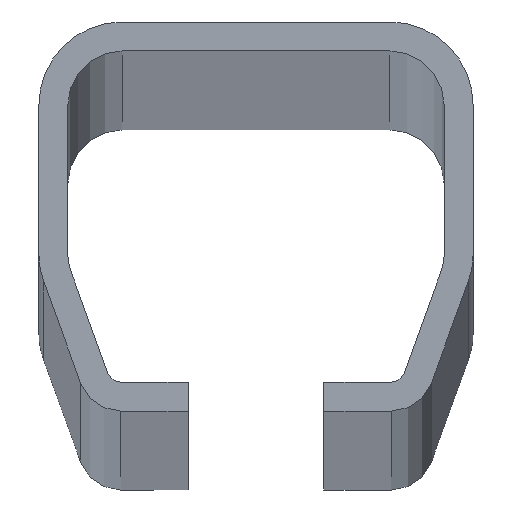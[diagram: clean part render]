
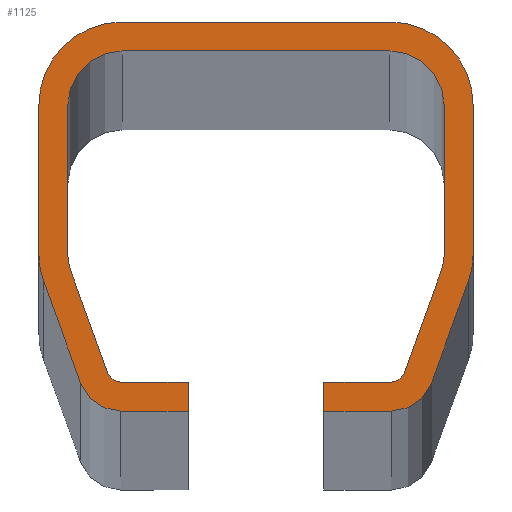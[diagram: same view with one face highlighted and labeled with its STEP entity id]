
A CAD part, top view. The second image highlights one B-rep face of the part: STEP entity #1125.
In plain terms, the highlighted planar face has unit normal (0, 0, 1).
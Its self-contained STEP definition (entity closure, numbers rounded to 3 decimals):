
#21=CIRCLE('',#1178,4.7);
#23=CIRCLE('',#1182,9.2);
#25=CIRCLE('',#1186,9.2);
#27=CIRCLE('',#1190,9.2);
#29=CIRCLE('',#1194,9.2);
#31=CIRCLE('',#1198,4.7);
#33=CIRCLE('',#1204,1.5);
#35=CIRCLE('',#1208,6.);
#37=CIRCLE('',#1212,6.);
#39=CIRCLE('',#1216,6.);
#41=CIRCLE('',#1220,6.);
#43=CIRCLE('',#1224,1.5);
#115=FACE_OUTER_BOUND('',#181,.T.);
#181=EDGE_LOOP('',(#963,#964,#965,#966,#967,#968,#969,#970,#971,#972,#973,
#974,#975,#976,#977,#978,#979,#980,#981,#982,#983,#984,#985,#986,#987,#988,
#989,#990));
#257=LINE('',#1695,#389);
#261=LINE('',#1707,#393);
#265=LINE('',#1719,#397);
#269=LINE('',#1731,#401);
#273=LINE('',#1743,#405);
#277=LINE('',#1755,#409);
#280=LINE('',#1761,#412);
#283=LINE('',#1767,#415);
#287=LINE('',#1779,#419);
#291=LINE('',#1791,#423);
#295=LINE('',#1803,#427);
#299=LINE('',#1815,#431);
#303=LINE('',#1827,#435);
#307=LINE('',#1839,#439);
#310=LINE('',#1845,#442);
#313=LINE('',#1850,#445);
#389=VECTOR('',#1375,10.);
#393=VECTOR('',#1387,10.);
#397=VECTOR('',#1399,10.);
#401=VECTOR('',#1411,10.);
#405=VECTOR('',#1423,10.);
#409=VECTOR('',#1435,10.);
#412=VECTOR('',#1440,10.);
#415=VECTOR('',#1445,10.);
#419=VECTOR('',#1457,10.);
#423=VECTOR('',#1469,10.);
#427=VECTOR('',#1481,10.);
#431=VECTOR('',#1493,10.);
#435=VECTOR('',#1505,10.);
#439=VECTOR('',#1517,10.);
#442=VECTOR('',#1522,10.);
#445=VECTOR('',#1527,10.);
#495=VERTEX_POINT('',#1685);
#496=VERTEX_POINT('',#1686);
#499=VERTEX_POINT('',#1694);
#501=VERTEX_POINT('',#1700);
#503=VERTEX_POINT('',#1706);
#505=VERTEX_POINT('',#1712);
#507=VERTEX_POINT('',#1718);
#509=VERTEX_POINT('',#1724);
#511=VERTEX_POINT('',#1730);
#513=VERTEX_POINT('',#1736);
#515=VERTEX_POINT('',#1742);
#517=VERTEX_POINT('',#1748);
#519=VERTEX_POINT('',#1754);
#521=VERTEX_POINT('',#1760);
#523=VERTEX_POINT('',#1766);
#525=VERTEX_POINT('',#1772);
#527=VERTEX_POINT('',#1778);
#529=VERTEX_POINT('',#1784);
#531=VERTEX_POINT('',#1790);
#533=VERTEX_POINT('',#1796);
#535=VERTEX_POINT('',#1802);
#537=VERTEX_POINT('',#1808);
#539=VERTEX_POINT('',#1814);
#541=VERTEX_POINT('',#1820);
#543=VERTEX_POINT('',#1826);
#545=VERTEX_POINT('',#1832);
#547=VERTEX_POINT('',#1838);
#549=VERTEX_POINT('',#1844);
#623=EDGE_CURVE('',#495,#496,#21,.T.);
#627=EDGE_CURVE('',#496,#499,#257,.T.);
#630=EDGE_CURVE('',#499,#501,#23,.T.);
#633=EDGE_CURVE('',#501,#503,#261,.T.);
#636=EDGE_CURVE('',#503,#505,#25,.T.);
#639=EDGE_CURVE('',#505,#507,#265,.T.);
#642=EDGE_CURVE('',#507,#509,#27,.T.);
#645=EDGE_CURVE('',#509,#511,#269,.T.);
#648=EDGE_CURVE('',#511,#513,#29,.T.);
#651=EDGE_CURVE('',#513,#515,#273,.T.);
#654=EDGE_CURVE('',#515,#517,#31,.T.);
#657=EDGE_CURVE('',#517,#519,#277,.T.);
#660=EDGE_CURVE('',#519,#521,#280,.T.);
#663=EDGE_CURVE('',#521,#523,#283,.T.);
#666=EDGE_CURVE('',#523,#525,#33,.T.);
#669=EDGE_CURVE('',#525,#527,#287,.T.);
#672=EDGE_CURVE('',#527,#529,#35,.T.);
#675=EDGE_CURVE('',#529,#531,#291,.T.);
#678=EDGE_CURVE('',#531,#533,#37,.T.);
#681=EDGE_CURVE('',#533,#535,#295,.T.);
#684=EDGE_CURVE('',#535,#537,#39,.T.);
#687=EDGE_CURVE('',#537,#539,#299,.T.);
#690=EDGE_CURVE('',#539,#541,#41,.T.);
#693=EDGE_CURVE('',#541,#543,#303,.T.);
#696=EDGE_CURVE('',#543,#545,#43,.T.);
#699=EDGE_CURVE('',#545,#547,#307,.T.);
#702=EDGE_CURVE('',#547,#549,#310,.T.);
#705=EDGE_CURVE('',#549,#495,#313,.T.);
#963=ORIENTED_EDGE('',*,*,#623,.F.);
#964=ORIENTED_EDGE('',*,*,#705,.F.);
#965=ORIENTED_EDGE('',*,*,#702,.F.);
#966=ORIENTED_EDGE('',*,*,#699,.F.);
#967=ORIENTED_EDGE('',*,*,#696,.F.);
#968=ORIENTED_EDGE('',*,*,#693,.F.);
#969=ORIENTED_EDGE('',*,*,#690,.F.);
#970=ORIENTED_EDGE('',*,*,#687,.F.);
#971=ORIENTED_EDGE('',*,*,#684,.F.);
#972=ORIENTED_EDGE('',*,*,#681,.F.);
#973=ORIENTED_EDGE('',*,*,#678,.F.);
#974=ORIENTED_EDGE('',*,*,#675,.F.);
#975=ORIENTED_EDGE('',*,*,#672,.F.);
#976=ORIENTED_EDGE('',*,*,#669,.F.);
#977=ORIENTED_EDGE('',*,*,#666,.F.);
#978=ORIENTED_EDGE('',*,*,#663,.F.);
#979=ORIENTED_EDGE('',*,*,#660,.F.);
#980=ORIENTED_EDGE('',*,*,#657,.F.);
#981=ORIENTED_EDGE('',*,*,#654,.F.);
#982=ORIENTED_EDGE('',*,*,#651,.F.);
#983=ORIENTED_EDGE('',*,*,#648,.F.);
#984=ORIENTED_EDGE('',*,*,#645,.F.);
#985=ORIENTED_EDGE('',*,*,#642,.F.);
#986=ORIENTED_EDGE('',*,*,#639,.F.);
#987=ORIENTED_EDGE('',*,*,#636,.F.);
#988=ORIENTED_EDGE('',*,*,#633,.F.);
#989=ORIENTED_EDGE('',*,*,#630,.F.);
#990=ORIENTED_EDGE('',*,*,#627,.F.);
#1065=PLANE('',#1229);
#1125=ADVANCED_FACE('',(#115),#1065,.T.);
#1178=AXIS2_PLACEMENT_3D('',#1687,#1367,#1368);
#1182=AXIS2_PLACEMENT_3D('',#1701,#1380,#1381);
#1186=AXIS2_PLACEMENT_3D('',#1713,#1392,#1393);
#1190=AXIS2_PLACEMENT_3D('',#1725,#1404,#1405);
#1194=AXIS2_PLACEMENT_3D('',#1737,#1416,#1417);
#1198=AXIS2_PLACEMENT_3D('',#1749,#1428,#1429);
#1204=AXIS2_PLACEMENT_3D('',#1773,#1450,#1451);
#1208=AXIS2_PLACEMENT_3D('',#1785,#1462,#1463);
#1212=AXIS2_PLACEMENT_3D('',#1797,#1474,#1475);
#1216=AXIS2_PLACEMENT_3D('',#1809,#1486,#1487);
#1220=AXIS2_PLACEMENT_3D('',#1821,#1498,#1499);
#1224=AXIS2_PLACEMENT_3D('',#1833,#1510,#1511);
#1229=AXIS2_PLACEMENT_3D('',#1852,#1529,#1530);
#1367=DIRECTION('center_axis',(0.,0.,-1.));
#1368=DIRECTION('ref_axis',(0.94,0.342,0.));
#1375=DIRECTION('',(-0.342,0.94,0.));
#1380=DIRECTION('center_axis',(0.,0.,-1.));
#1381=DIRECTION('ref_axis',(1.,0.,0.));
#1387=DIRECTION('',(0.,1.,0.));
#1392=DIRECTION('center_axis',(0.,0.,-1.));
#1393=DIRECTION('ref_axis',(0.,-1.,0.));
#1399=DIRECTION('',(1.,0.,0.));
#1404=DIRECTION('center_axis',(0.,0.,-1.));
#1405=DIRECTION('ref_axis',(-1.,0.,0.));
#1411=DIRECTION('',(0.,-1.,0.));
#1416=DIRECTION('center_axis',(0.,0.,-1.));
#1417=DIRECTION('ref_axis',(-0.94,0.342,0.));
#1423=DIRECTION('',(-0.342,-0.94,0.));
#1428=DIRECTION('center_axis',(0.,0.,-1.));
#1429=DIRECTION('ref_axis',(0.,1.,0.));
#1435=DIRECTION('',(-1.,0.,0.));
#1440=DIRECTION('',(0.,1.,0.));
#1445=DIRECTION('',(1.,0.,0.));
#1450=DIRECTION('center_axis',(0.,0.,1.));
#1451=DIRECTION('ref_axis',(0.,-1.,0.));
#1457=DIRECTION('',(0.342,0.94,0.));
#1462=DIRECTION('center_axis',(0.,0.,1.));
#1463=DIRECTION('ref_axis',(0.94,-0.342,0.));
#1469=DIRECTION('',(0.,1.,0.));
#1474=DIRECTION('center_axis',(0.,0.,1.));
#1475=DIRECTION('ref_axis',(1.,0.,0.));
#1481=DIRECTION('',(-1.,0.,0.));
#1486=DIRECTION('center_axis',(0.,0.,1.));
#1487=DIRECTION('ref_axis',(0.,1.,0.));
#1493=DIRECTION('',(0.,-1.,0.));
#1498=DIRECTION('center_axis',(0.,0.,1.));
#1499=DIRECTION('ref_axis',(-1.,0.,0.));
#1505=DIRECTION('',(0.342,-0.94,0.));
#1510=DIRECTION('center_axis',(0.,0.,1.));
#1511=DIRECTION('ref_axis',(-0.94,-0.342,0.));
#1517=DIRECTION('',(1.,0.,0.));
#1522=DIRECTION('',(0.,-1.,0.));
#1527=DIRECTION('',(-1.,0.,0.));
#1529=DIRECTION('center_axis',(0.,0.,1.));
#1530=DIRECTION('ref_axis',(1.,0.,0.));
#1685=CARTESIAN_POINT('',(-14.958,-3.2,5000.));
#1686=CARTESIAN_POINT('',(-19.375,-0.107,5000.));
#1687=CARTESIAN_POINT('Origin',(-14.958,1.5,5000.));
#1694=CARTESIAN_POINT('',(-23.445,11.076,5000.));
#1695=CARTESIAN_POINT('',(-19.375,-0.107,5000.));
#1700=CARTESIAN_POINT('',(-24.,14.222,5000.));
#1701=CARTESIAN_POINT('Origin',(-14.8,14.222,5000.));
#1706=CARTESIAN_POINT('',(-24.,30.6,5000.));
#1707=CARTESIAN_POINT('',(-24.,14.222,5000.));
#1712=CARTESIAN_POINT('',(-14.8,39.8,5000.));
#1713=CARTESIAN_POINT('Origin',(-14.8,30.6,5000.));
#1718=CARTESIAN_POINT('',(14.8,39.8,5000.));
#1719=CARTESIAN_POINT('',(-14.8,39.8,5000.));
#1724=CARTESIAN_POINT('',(24.,30.6,5000.));
#1725=CARTESIAN_POINT('Origin',(14.8,30.6,5000.));
#1730=CARTESIAN_POINT('',(24.,14.222,5000.));
#1731=CARTESIAN_POINT('',(24.,30.6,5000.));
#1736=CARTESIAN_POINT('',(23.445,11.076,5000.));
#1737=CARTESIAN_POINT('Origin',(14.8,14.222,5000.));
#1742=CARTESIAN_POINT('',(19.375,-0.107,5000.));
#1743=CARTESIAN_POINT('',(23.445,11.076,5000.));
#1748=CARTESIAN_POINT('',(14.958,-3.2,5000.));
#1749=CARTESIAN_POINT('Origin',(14.958,1.5,5000.));
#1754=CARTESIAN_POINT('',(7.5,-3.2,5000.));
#1755=CARTESIAN_POINT('',(14.958,-3.2,5000.));
#1760=CARTESIAN_POINT('',(7.5,0.,5000.));
#1761=CARTESIAN_POINT('',(7.5,-3.2,5000.));
#1766=CARTESIAN_POINT('',(14.958,0.,5000.));
#1767=CARTESIAN_POINT('',(7.5,0.,5000.));
#1772=CARTESIAN_POINT('',(16.368,0.987,5000.));
#1773=CARTESIAN_POINT('Origin',(14.958,1.5,5000.));
#1778=CARTESIAN_POINT('',(20.438,12.17,5000.));
#1779=CARTESIAN_POINT('',(16.368,0.987,5000.));
#1784=CARTESIAN_POINT('',(20.8,14.222,5000.));
#1785=CARTESIAN_POINT('Origin',(14.8,14.222,5000.));
#1790=CARTESIAN_POINT('',(20.8,30.6,5000.));
#1791=CARTESIAN_POINT('',(20.8,14.222,5000.));
#1796=CARTESIAN_POINT('',(14.8,36.6,5000.));
#1797=CARTESIAN_POINT('Origin',(14.8,30.6,5000.));
#1802=CARTESIAN_POINT('',(-14.8,36.6,5000.));
#1803=CARTESIAN_POINT('',(14.8,36.6,5000.));
#1808=CARTESIAN_POINT('',(-20.8,30.6,5000.));
#1809=CARTESIAN_POINT('Origin',(-14.8,30.6,5000.));
#1814=CARTESIAN_POINT('',(-20.8,14.222,5000.));
#1815=CARTESIAN_POINT('',(-20.8,30.6,5000.));
#1820=CARTESIAN_POINT('',(-20.438,12.17,5000.));
#1821=CARTESIAN_POINT('Origin',(-14.8,14.222,5000.));
#1826=CARTESIAN_POINT('',(-16.368,0.987,5000.));
#1827=CARTESIAN_POINT('',(-20.438,12.17,5000.));
#1832=CARTESIAN_POINT('',(-14.958,0.,5000.));
#1833=CARTESIAN_POINT('Origin',(-14.958,1.5,5000.));
#1838=CARTESIAN_POINT('',(-7.5,0.,5000.));
#1839=CARTESIAN_POINT('',(-14.958,0.,5000.));
#1844=CARTESIAN_POINT('',(-7.5,-3.2,5000.));
#1845=CARTESIAN_POINT('',(-7.5,0.,5000.));
#1850=CARTESIAN_POINT('',(-7.5,-3.2,5000.));
#1852=CARTESIAN_POINT('Origin',(0.,20.457,5000.));
